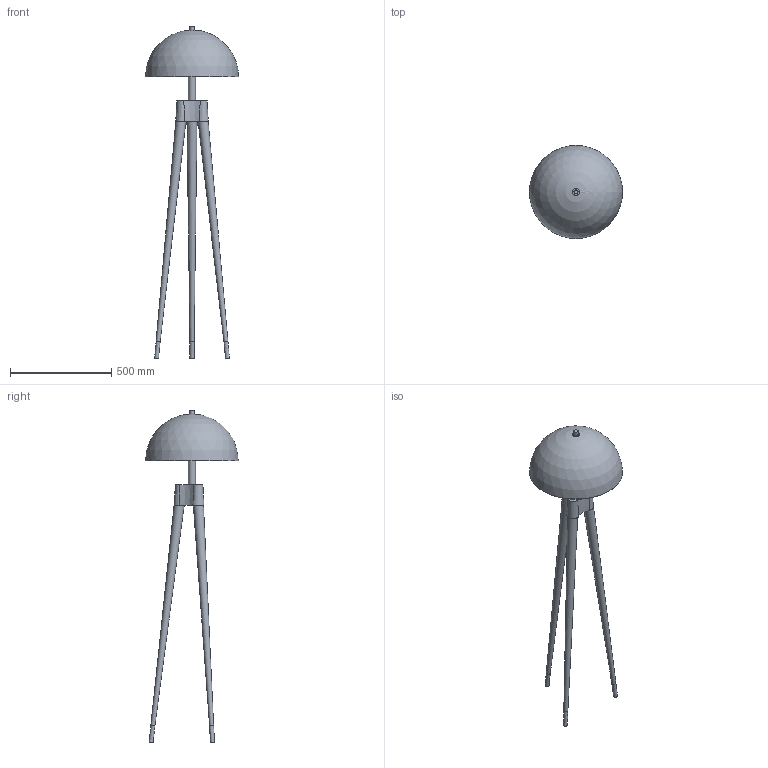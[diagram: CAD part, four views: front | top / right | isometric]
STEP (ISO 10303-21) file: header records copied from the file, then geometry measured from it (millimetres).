
FILE_DESCRIPTION( ( 'STEP AP203' ), '1' );
FILE_NAME( 'D:/Tecnico/Desktop/BF Disegni/LADY/LADY-P Piantana.stp', '2020-09-11T15:33:31', ( ' ' ), ( ' ' ), 'XStep 1.0', ' ', ' ' );
FILE_SCHEMA( ( 'CONFIG_CONTROL_DESIGN) ( )' ) );
Length unit declared in the file: metre
Products named in the file (10): 1; 2; 3; 4; 5; 6; 7; 8; 9; 10
Bounding box: 460 x 460 x 1640 mm (x, y, z)
Volume: 5558009.2 mm3; surface area: 1163656.2 mm2
Topology: 10 solids, 10 shells, 35 faces, 49 edges, 33 vertices
Faces by surface type: plane 19, bspline 6, cone 6, sphere 2, cylinder 2
Full cylindrical faces by diameter (mm): 20 x1, 35 x1
Entity records: 2858 total; most frequent: CARTESIAN_POINT 1899, DIRECTION 120, ORIENTED_EDGE 72, AXIS2_PLACEMENT_3D 57, CC_DESIGN_PERSON_AND_ORGANIZATION_ASSIGNMENT 50, EDGE_LOOP 44, FACE_OUTER_BOUND 43, PERSON_AND_ORGANIZATION_ROLE 40
